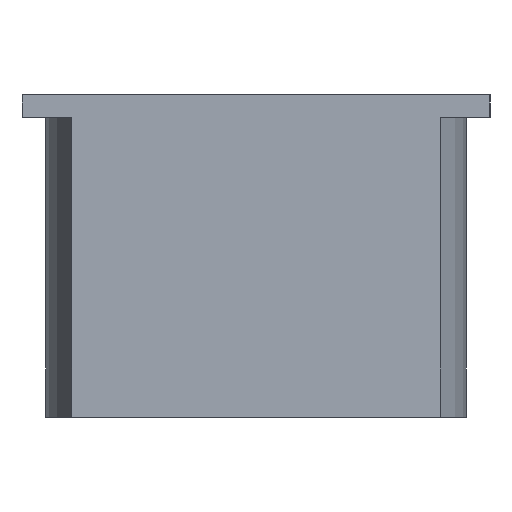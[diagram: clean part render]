
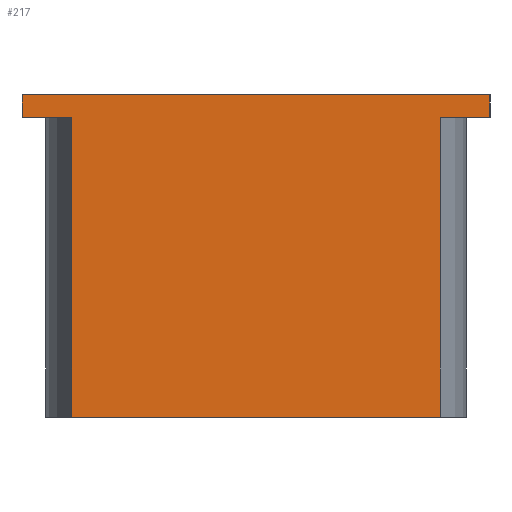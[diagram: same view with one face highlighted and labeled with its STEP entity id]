
A CAD part, left-side view. The second image highlights one B-rep face of the part: STEP entity #217.
In plain terms, the highlighted planar face has unit normal (-1, 0, 0).
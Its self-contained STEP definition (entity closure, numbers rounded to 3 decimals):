
#41=FACE_OUTER_BOUND('',#53,.T.);
#53=EDGE_LOOP('',(#181,#182,#183,#184,#185,#186,#187,#188));
#58=LINE('',#339,#76);
#64=LINE('',#354,#82);
#65=LINE('',#361,#83);
#66=LINE('',#363,#84);
#68=LINE('',#374,#86);
#72=LINE('',#388,#90);
#73=LINE('',#390,#91);
#74=LINE('',#391,#92);
#76=VECTOR('',#270,10.);
#82=VECTOR('',#284,10.);
#83=VECTOR('',#291,10.);
#84=VECTOR('',#292,10.);
#86=VECTOR('',#304,10.);
#90=VECTOR('',#322,10.);
#91=VECTOR('',#323,10.);
#92=VECTOR('',#324,10.);
#93=VERTEX_POINT('',#335);
#95=VERTEX_POINT('',#338);
#99=VERTEX_POINT('',#350);
#100=VERTEX_POINT('',#352);
#103=VERTEX_POINT('',#359);
#104=VERTEX_POINT('',#362);
#108=VERTEX_POINT('',#372);
#112=VERTEX_POINT('',#389);
#114=EDGE_CURVE('',#93,#95,#58,.T.);
#122=EDGE_CURVE('',#99,#100,#64,.T.);
#125=EDGE_CURVE('',#103,#100,#65,.T.);
#126=EDGE_CURVE('',#95,#104,#66,.T.);
#132=EDGE_CURVE('',#103,#108,#68,.T.);
#139=EDGE_CURVE('',#99,#93,#72,.T.);
#140=EDGE_CURVE('',#112,#108,#73,.T.);
#141=EDGE_CURVE('',#104,#112,#74,.T.);
#181=ORIENTED_EDGE('',*,*,#139,.F.);
#182=ORIENTED_EDGE('',*,*,#122,.T.);
#183=ORIENTED_EDGE('',*,*,#125,.F.);
#184=ORIENTED_EDGE('',*,*,#132,.T.);
#185=ORIENTED_EDGE('',*,*,#140,.F.);
#186=ORIENTED_EDGE('',*,*,#141,.F.);
#187=ORIENTED_EDGE('',*,*,#126,.F.);
#188=ORIENTED_EDGE('',*,*,#114,.F.);
#206=PLANE('',#260);
#217=ADVANCED_FACE('',(#41),#206,.T.);
#260=AXIS2_PLACEMENT_3D('',#387,#320,#321);
#270=DIRECTION('',(0.,0.,-1.));
#284=DIRECTION('',(0.,0.,-1.));
#291=DIRECTION('',(0.,1.,0.));
#292=DIRECTION('',(0.,1.,0.));
#304=DIRECTION('',(0.,0.,-1.));
#320=DIRECTION('center_axis',(-1.,0.,0.));
#321=DIRECTION('ref_axis',(0.,1.,0.));
#322=DIRECTION('',(0.,-1.,0.));
#323=DIRECTION('',(0.,1.,0.));
#324=DIRECTION('',(0.,0.,-1.));
#335=CARTESIAN_POINT('',(0.,-8.35,0.));
#338=CARTESIAN_POINT('',(0.,-8.35,-0.8));
#339=CARTESIAN_POINT('',(0.,-8.35,0.));
#350=CARTESIAN_POINT('',(0.,8.35,0.));
#352=CARTESIAN_POINT('',(0.,8.35,-0.8));
#354=CARTESIAN_POINT('',(0.,8.35,0.));
#359=CARTESIAN_POINT('',(0.,6.58,-0.8));
#361=CARTESIAN_POINT('',(0.,8.35,-0.8));
#362=CARTESIAN_POINT('',(0.,-6.58,-0.8));
#363=CARTESIAN_POINT('',(0.,8.35,-0.8));
#372=CARTESIAN_POINT('',(0.,6.58,-11.5));
#374=CARTESIAN_POINT('',(0.,6.58,0.));
#387=CARTESIAN_POINT('Origin',(0.,-6.58,0.));
#388=CARTESIAN_POINT('',(0.,8.35,0.));
#389=CARTESIAN_POINT('',(0.,-6.58,-11.5));
#390=CARTESIAN_POINT('',(0.,6.58,-11.5));
#391=CARTESIAN_POINT('',(0.,-6.58,0.));
